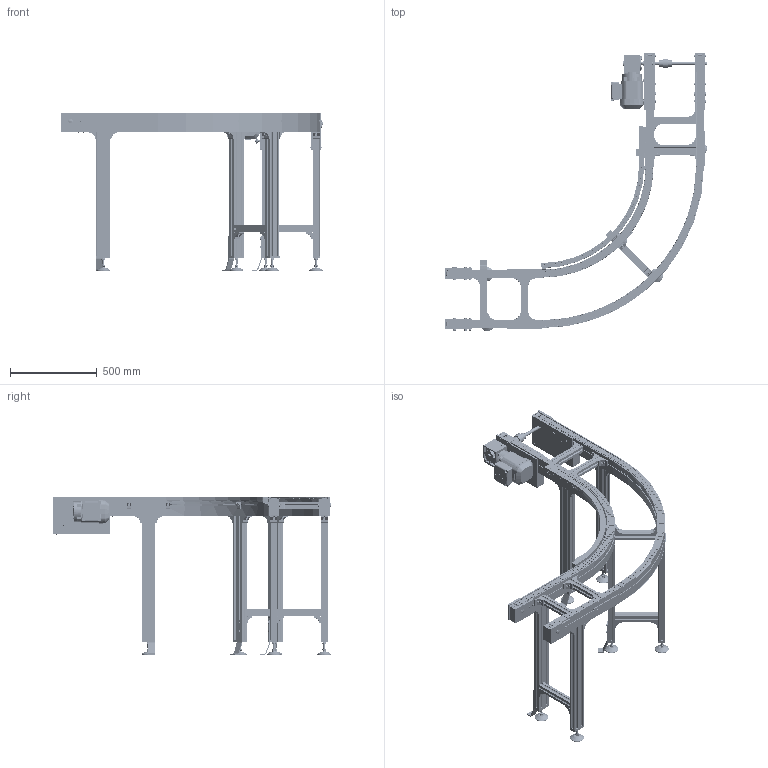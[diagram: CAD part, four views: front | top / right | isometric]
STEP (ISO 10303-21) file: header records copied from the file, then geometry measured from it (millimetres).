
FILE_DESCRIPTION(/* description */ (''),/* implementation_level */ '2;1');
FILE_NAME(/* name */ 'C:\Marketing\01_Versamove-SPU_STEP-Dateien-Homepage\VersamoveStandard\B320\STEP-Dateien\Flachplattenförderer_FPF-P-2045_Kurve90-links_B320.stp',/* time_stamp */ '2016-12-19T15:57:40+01:00',/* author */ ('herbert.engels'),/* organization */ (''),/* preprocessor_version */ 'ST-DEVELOPER v15.6',/* originating_system */ 'Autodesk Inventor 2015',/* authorisation */ '');
FILE_SCHEMA (('CONFIG_CONTROL_DESIGN'));
Length unit declared in the file: millimetre
Products named in the file (1): Flachplattenförderer_FPF-P-2045_Kurve90-links_B32
0
Bounding box: 1507.87 x 1602.37 x 905.3 mm (x, y, z)
Volume: 32806721.7 mm3; surface area: 7985439 mm2
Topology: 52 solids, 52 shells, 8739 faces, 24225 edges, 15502 vertices
Faces by surface type: plane 5649, cylinder 2193, cone 516, torus 297, sphere 68, bspline 16
Full cylindrical faces by diameter (mm): 2 x8, 6 x14, 6.647 x8, 7.323 x4, 8 x114, 8.7 x4, 9 x28, 10 x8, 10.066 x1, 11 x4, 11.4 x22, 12 x12, 13 x108, 13.6 x8, 14 x72, 15 x12, 16 x16, 18 x4, 19 x4, 19.77 x4, 20 x17, 25 x1, 25.05 x4, 28 x1, 30 x2, 40 x2, 53 x1, 54 x2, 56 x3, 79 x6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
Entity records: 286642 total; most frequent: CARTESIAN_POINT 55624, ORIENTED_EDGE 46328, DIRECTION 45258, EDGE_CURVE 23133, LINE 15896, VECTOR 15896, VERTEX_POINT 15188, AXIS2_PLACEMENT_3D 14681
